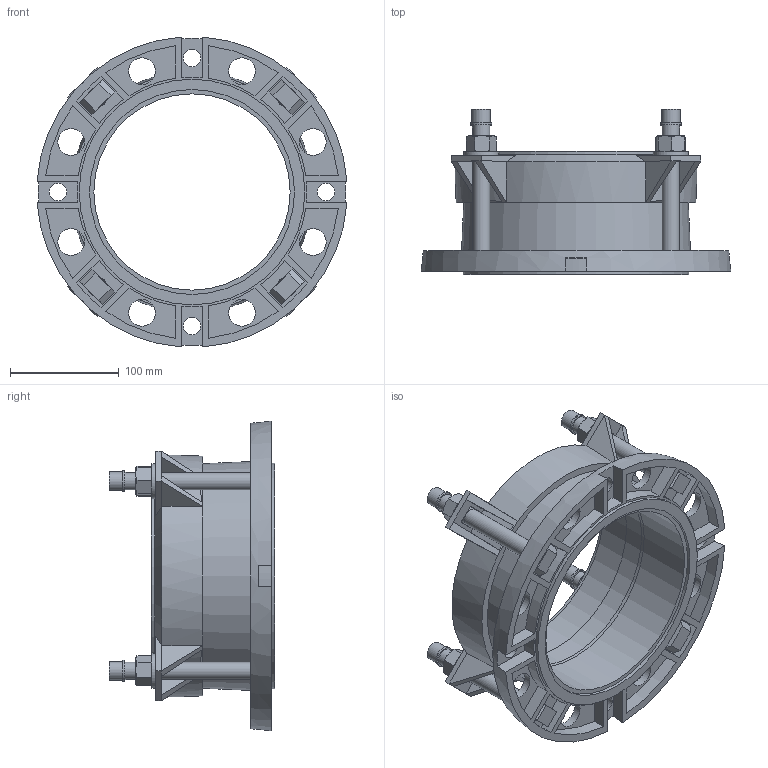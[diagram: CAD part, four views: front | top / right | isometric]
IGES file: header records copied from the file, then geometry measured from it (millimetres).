
Start section: SolidWorks IGES file using analytic representation for surfaces
Global section: file name: \\avksan2\techshare\PBM outline export from Enovia\O_623_10_DN150-180mm_X1XXXXX_REV01.igs; native system: SolidWorks 2019; preprocessor: SolidWorks 2019; author: pbm; date: 200417.105455; units: millimetre
Bounding box: 284.37 x 151.5 x 284.37 mm (x, y, z)
Surface area: 303564.6 mm2 (no closed solid volume)
Topology: 0 solids, 0 shells, 395 faces, 1902 edges, 1847 vertices
Faces by surface type: bspline 232, revolution 163
